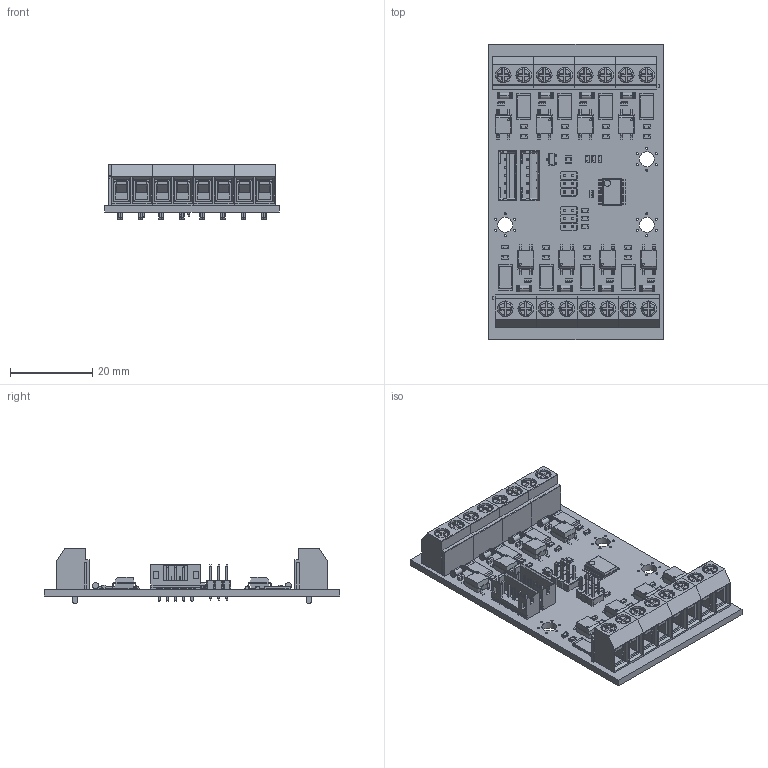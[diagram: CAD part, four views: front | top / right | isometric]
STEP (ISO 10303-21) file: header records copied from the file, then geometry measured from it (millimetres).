
FILE_DESCRIPTION(('Open CASCADE Model'),'2;1');
FILE_NAME('Open CASCADE Shape Model','2023-06-19T14:54:20',('Author'),( 'Open CASCADE'),'Open CASCADE STEP processor 6.8','Open CASCADE 6.8' ,'Unknown');
FILE_SCHEMA(('AUTOMOTIVE_DESIGN { 1 0 10303 214 1 1 1 1 }'));
Length unit declared in the file: millimetre
Products named in the file (79): PCB; Board; R13; MCR100; R7; U7; PC357NJ000F; D6; PMLL4148L; J1; DT-126VP-08P; DT-126VP-02P; R31; MCR03; R28; R24; R22; R20; R14; R12; R11; C10; GRM188; C9; C8; C7; C5; C3; C2; C1; U9; U8; U6; PCF8574APWR; U5; U4; U3; U2; U1; R29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
Assembly tree (136 placements, depth 4):
  PCB
    Board
    R13
      MCR100
    R7
      MCR100
    U7
      PC357NJ000F
    D6
      PMLL4148L
    J1
      DT-126VP-08P
        DT-126VP-02P  x4
    R31
      MCR03
    R28
      MCR03
    R24
      MCR03
    R22
      MCR03
    R20
      MCR03
    R14
      MCR03
    R12
      MCR03
    R11
      MCR03
    C10
      GRM188
    C9
      GRM188
    C8
      GRM188
    C7
      GRM188
    C5
      GRM188
    C3
      GRM188
    C2
      GRM188
    C1
      GRM188
    U9
      PC357NJ000F
    U8
      PC357NJ000F
    U6
      PCF8574APWR
    U5
      PC357NJ000F
    U4
      PC357NJ000F
    U3
      PC357NJ000F
    U2
      PC357NJ000F
    U1
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Bounding box: 42.5 x 72 x 13.6 mm (x, y, z)
Volume: 10685.3 mm3; surface area: 18883.6 mm2
Topology: 91 solids, 91 shells, 6932 faces, 17163 edges, 10342 vertices
Faces by surface type: plane 3667, cylinder 2305, torus 648, sphere 248, bspline 64
Full cylindrical faces by diameter (mm): 0.5 x18, 0.85 x22, 1.5 x16, 3.6 x3
Entity records: 66820 total; most frequent: DIRECTION 9747, CARTESIAN_POINT 9627, ORIENTED_EDGE 8822, EDGE_CURVE 4411, AXIS2_PLACEMENT_3D 3542, VERTEX_POINT 2670, LINE 2663, VECTOR 2663
